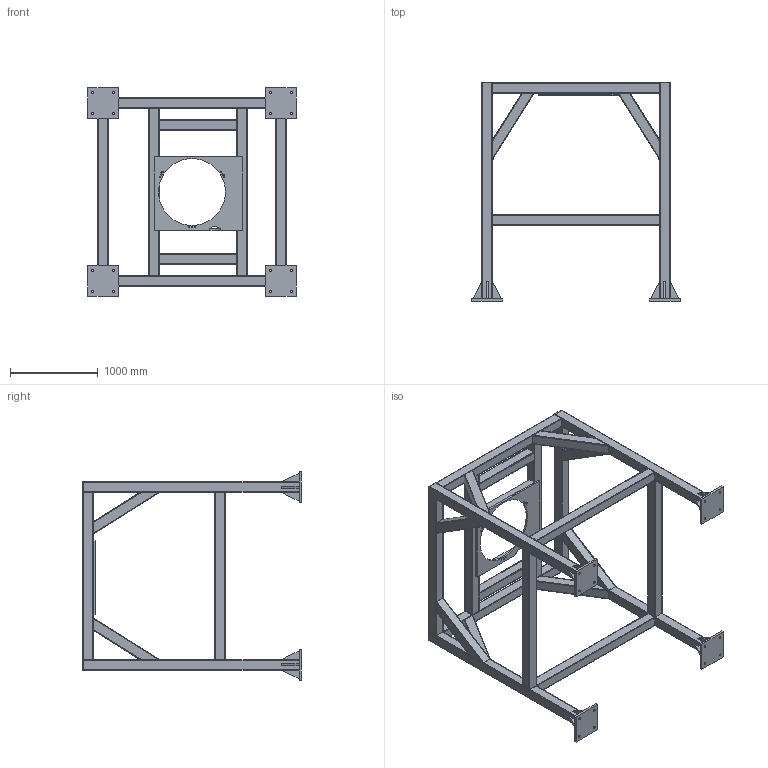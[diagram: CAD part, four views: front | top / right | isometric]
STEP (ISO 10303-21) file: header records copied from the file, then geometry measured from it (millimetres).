
FILE_DESCRIPTION (( 'STEP AP203' ), '1' );
FILE_NAME ('1600儂殤.STEP', '2025-07-22T01:38:33', ( '' ), ( '' ), 'SwSTEP 2.0', 'SolidWorks 2017', '' );
FILE_SCHEMA (( 'CONFIG_CONTROL_DESIGN' ));
Length unit declared in the file: millimetre
Products named in the file (1): 1600儂殤
Bounding box: 2370 x 2485 x 2370 mm (x, y, z)
Volume: 93191416.5 mm3; surface area: 36204528 mm2
Topology: 36 solids, 36 shells, 623 faces, 1643 edges, 1098 vertices
Faces by surface type: plane 364, cylinder 259
Entity records: 19418 total; most frequent: CARTESIAN_POINT 3797, ORIENTED_EDGE 3286, DIRECTION 3121, EDGE_CURVE 1643, VECTOR 1125, LINE 1125, VERTEX_POINT 1098, AXIS2_PLACEMENT_3D 998
